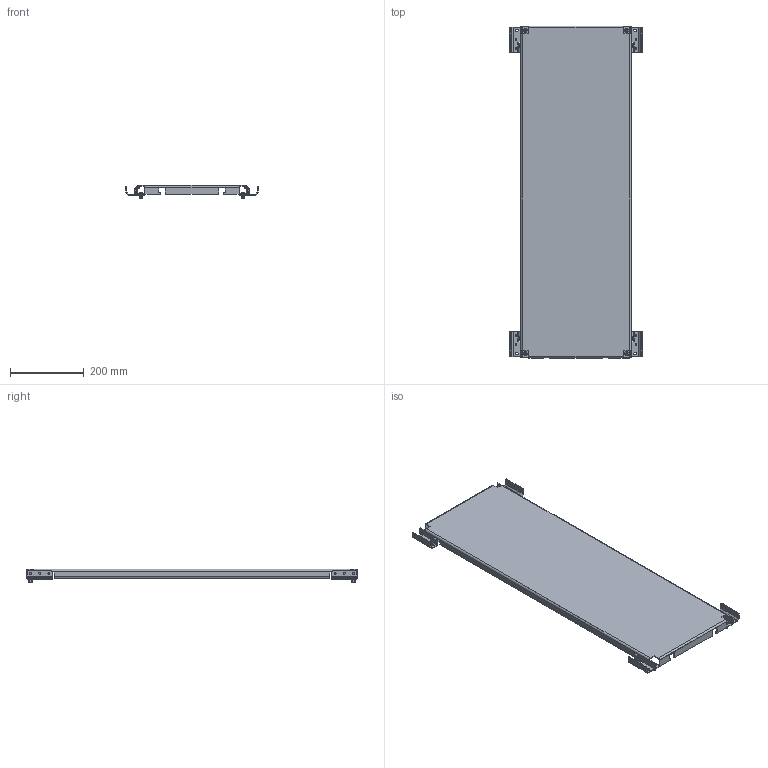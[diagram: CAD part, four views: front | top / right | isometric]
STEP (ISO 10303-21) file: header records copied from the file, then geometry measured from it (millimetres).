
FILE_DESCRIPTION (( 'STEP AP214' ), '1' );
FILE_NAME ('MSD 100.40 M ÑÁ Ïàíåëü ìîíòàæíàÿ ñåêöèîííàÿ â ñáîðå.STEP', '2024-06-14T12:07:29', ( '' ), ( '' ), 'SwSTEP 2.0', 'SolidWorks 2019', '' );
FILE_SCHEMA (( 'AUTOMOTIVE_DESIGN' ));
Length unit declared in the file: millimetre
Products named in the file (1): MSD 100.40 M ÑÁ Ïàíåëü ìîíòàæíàÿ ñåêöèîííàÿ â ñáîðå
Bounding box: 358 x 899 x 36.58 mm (x, y, z)
Volume: 894522.7 mm3; surface area: 730394.6 mm2
Topology: 13 solids, 13 shells, 790 faces, 1924 edges, 1176 vertices
Faces by surface type: plane 358, cylinder 344, torus 48, bspline 16, cone 16, sphere 8
Entity records: 37512 total; most frequent: CARTESIAN_POINT 10079, DIRECTION 3998, ORIENTED_EDGE 3832, EDGE_CURVE 1916, AXIS2_PLACEMENT_3D 1487, VERTEX_POINT 1176, LINE 1024, VECTOR 1024
